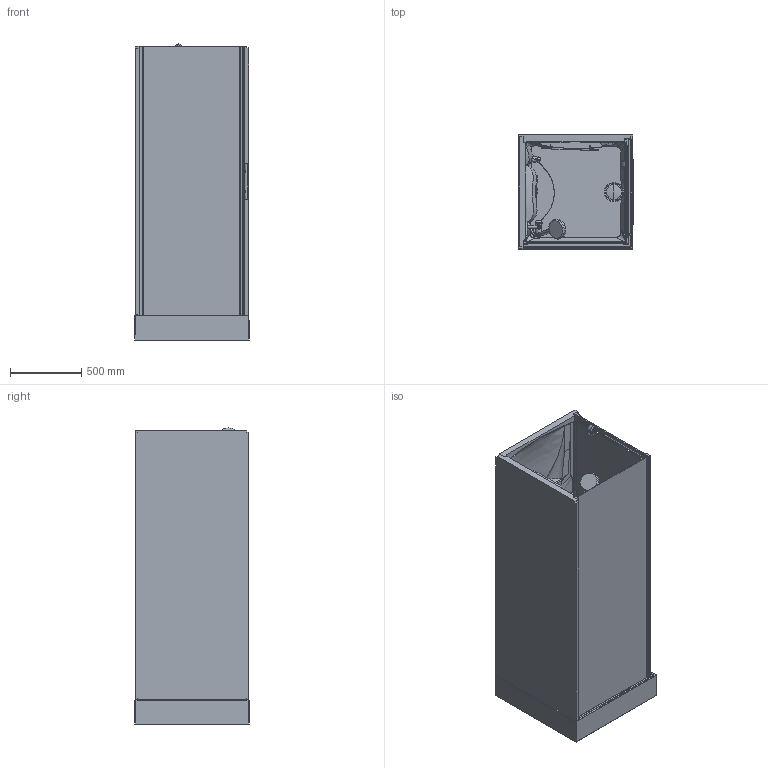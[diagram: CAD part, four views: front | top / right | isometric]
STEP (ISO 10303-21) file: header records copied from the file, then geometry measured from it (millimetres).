
FILE_DESCRIPTION(('STEP AP203'),'2;1');
FILE_NAME('NNH GF 80 T 19.stp','2015-09-04T15:31:15',(''),(''),'2014.1.117','THINKDESIGN','');
FILE_SCHEMA(('CONFIG_CONTROL_DESIGN'));
Length unit declared in the file: millimetre
Products named in the file (1): top
Bounding box: 807.53 x 804.03 x 2080.01 mm (x, y, z)
Volume: 174751411.6 mm3; surface area: 16333210.4 mm2
Topology: 40 solids, 40 shells, 726 faces, 1746 edges, 1107 vertices
Faces by surface type: bspline 371, plane 244, cylinder 111
Entity records: 72946 total; most frequent: CARTESIAN_POINT 58482, ORIENTED_EDGE 3462, DIRECTION 2030, EDGE_CURVE 1731, VERTEX_POINT 1107, EDGE_LOOP 752, FACE_OUTER_BOUND 726, ADVANCED_FACE 726
